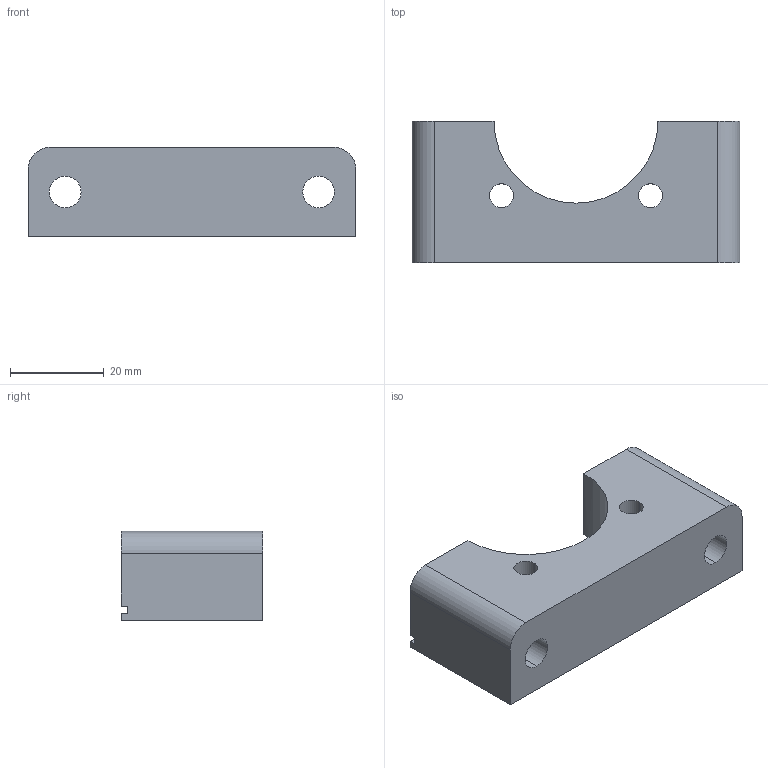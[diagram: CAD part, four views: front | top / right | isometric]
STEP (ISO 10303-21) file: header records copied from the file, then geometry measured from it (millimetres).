
FILE_DESCRIPTION (( 'STEP AP203' ), '1' );
FILE_NAME ('269-18-215.STEP', '2020-03-03T18:27:04', ( '' ), ( '' ), 'SwSTEP 2.0', 'SolidWorks 2017', '' );
FILE_SCHEMA (( 'CONFIG_CONTROL_DESIGN' ));
Length unit declared in the file: inch
Products named in the file (1): 269-18-215
Bounding box: 69.85 x 30.16 x 19.05 mm (x, y, z)
Volume: 25389.7 mm3; surface area: 9532.7 mm2
Topology: 1 solids, 1 shells, 32 faces, 84 edges, 56 vertices
Faces by surface type: plane 17, cylinder 15
Entity records: 1097 total; most frequent: DIRECTION 184, CARTESIAN_POINT 173, ORIENTED_EDGE 168, EDGE_CURVE 84, AXIS2_PLACEMENT_3D 67, VERTEX_POINT 56, LINE 50, VECTOR 50
